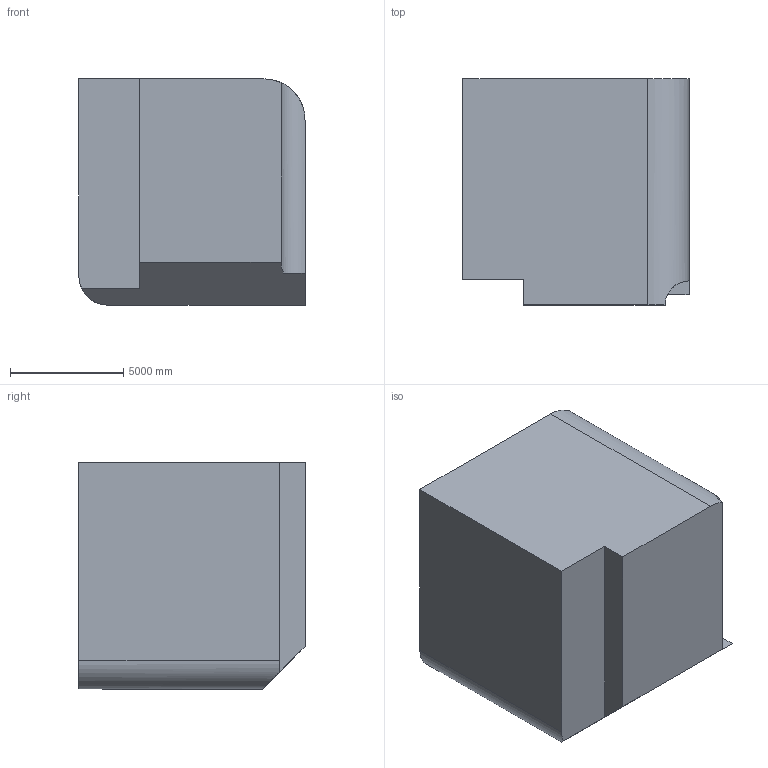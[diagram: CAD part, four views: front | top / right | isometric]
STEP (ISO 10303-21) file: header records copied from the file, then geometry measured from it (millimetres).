
FILE_DESCRIPTION (( 'STEP AP203' ), '1' );
FILE_NAME ('558.STEP', '2022-08-04T14:31:01', ( 'user' ), ( '' ), 'SwSTEP 2.0', 'SolidWorks 2021', '' );
FILE_SCHEMA (( 'CONFIG_CONTROL_DESIGN' ));
Length unit declared in the file: centimetre
Products named in the file (1): 558
Bounding box: 10000 x 10000 x 10000 mm (x, y, z)
Volume: 931092615803 mm3; surface area: 558780078 mm2
Topology: 1 solids, 1 shells, 15 faces, 39 edges, 26 vertices
Faces by surface type: plane 11, cylinder 4
Entity records: 634 total; most frequent: CARTESIAN_POINT 188, ORIENTED_EDGE 78, DIRECTION 74, EDGE_CURVE 39, LINE 28, VECTOR 28, VERTEX_POINT 26, AXIS2_PLACEMENT_3D 23
